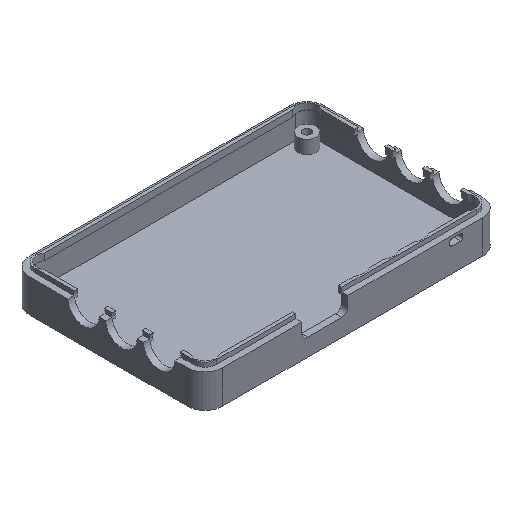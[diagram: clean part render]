
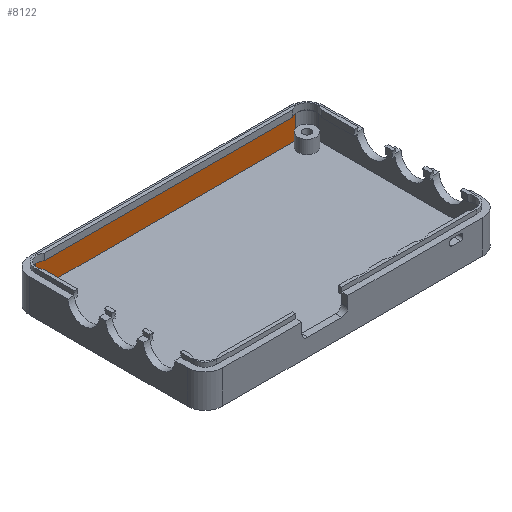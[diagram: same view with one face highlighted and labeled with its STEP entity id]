
A CAD part, isometric view. The second image highlights one B-rep face of the part: STEP entity #8122.
In plain terms, the highlighted planar face has unit normal (0, -1, 0).
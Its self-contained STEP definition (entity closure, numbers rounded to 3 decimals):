
#2402 = PLANE('',#2403);
#2403 = AXIS2_PLACEMENT_3D('',#2404,#2405,#2406);
#2404 = CARTESIAN_POINT('',(-0.6,-0.6,9.4));
#2405 = DIRECTION('',(0.,0.,1.));
#2406 = DIRECTION('',(1.,0.,0.));
#3807 = PLANE('',#3808);
#3808 = AXIS2_PLACEMENT_3D('',#3809,#3810,#3811);
#3809 = CARTESIAN_POINT('',(-0.4,-0.4,2.));
#3810 = DIRECTION('',(0.,0.,1.));
#3811 = DIRECTION('',(1.,0.,0.));
#5268 = CYLINDRICAL_SURFACE('',#5269,3.4);
#5269 = AXIS2_PLACEMENT_3D('',#5270,#5271,#5272);
#5270 = CARTESIAN_POINT('',(3.,51.,2.));
#5271 = DIRECTION('',(0.,0.,1.));
#5272 = DIRECTION('',(-1.,-0.,0.));
#5512 = EDGE_CURVE('',#5513,#5515,#5517,.T.);
#5513 = VERTEX_POINT('',#5514);
#5514 = CARTESIAN_POINT('',(3.,54.4,9.4));
#5515 = VERTEX_POINT('',#5516);
#5516 = CARTESIAN_POINT('',(82.,54.4,9.4));
#5517 = SURFACE_CURVE('',#5518,(#5522,#5528),.PCURVE_S1.);
#5518 = LINE('',#5519,#5520);
#5519 = CARTESIAN_POINT('',(-0.5,54.4,9.4));
#5520 = VECTOR('',#5521,1.);
#5521 = DIRECTION('',(1.,0.,0.));
#5522 = PCURVE('',#2402,#5523);
#5523 = DEFINITIONAL_REPRESENTATION('',(#5524),#5527);
#5524 = B_SPLINE_CURVE_WITH_KNOTS('',1,(#5525,#5526),.UNSPECIFIED.,.F.,
  .F.,(2,2),(3.5,82.5),.PIECEWISE_BEZIER_KNOTS.);
#5525 = CARTESIAN_POINT('',(3.6,55.));
#5526 = CARTESIAN_POINT('',(82.6,55.));
#5527 = ( GEOMETRIC_REPRESENTATION_CONTEXT(2) 
PARAMETRIC_REPRESENTATION_CONTEXT() REPRESENTATION_CONTEXT('2D SPACE',''
  ) );
#5528 = PCURVE('',#5529,#5534);
#5529 = PLANE('',#5530);
#5530 = AXIS2_PLACEMENT_3D('',#5531,#5532,#5533);
#5531 = CARTESIAN_POINT('',(-0.4,54.4,2.));
#5532 = DIRECTION('',(0.,1.,0.));
#5533 = DIRECTION('',(0.,0.,1.));
#5534 = DEFINITIONAL_REPRESENTATION('',(#5535),#5538);
#5535 = B_SPLINE_CURVE_WITH_KNOTS('',1,(#5536,#5537),.UNSPECIFIED.,.F.,
  .F.,(2,2),(3.5,82.5),.PIECEWISE_BEZIER_KNOTS.);
#5536 = CARTESIAN_POINT('',(7.4,3.4));
#5537 = CARTESIAN_POINT('',(7.4,82.4));
#5538 = ( GEOMETRIC_REPRESENTATION_CONTEXT(2) 
PARAMETRIC_REPRESENTATION_CONTEXT() REPRESENTATION_CONTEXT('2D SPACE',''
  ) );
#5729 = CYLINDRICAL_SURFACE('',#5730,3.4);
#5730 = AXIS2_PLACEMENT_3D('',#5731,#5732,#5733);
#5731 = CARTESIAN_POINT('',(82.,51.,2.));
#5732 = DIRECTION('',(0.,0.,1.));
#5733 = DIRECTION('',(1.,0.,-0.));
#7625 = VERTEX_POINT('',#7626);
#7626 = CARTESIAN_POINT('',(82.,54.4,2.));
#7648 = EDGE_CURVE('',#7649,#7625,#7651,.T.);
#7649 = VERTEX_POINT('',#7650);
#7650 = CARTESIAN_POINT('',(3.,54.4,2.));
#7651 = SURFACE_CURVE('',#7652,(#7656,#7663),.PCURVE_S1.);
#7652 = LINE('',#7653,#7654);
#7653 = CARTESIAN_POINT('',(-0.4,54.4,2.));
#7654 = VECTOR('',#7655,1.);
#7655 = DIRECTION('',(1.,0.,0.));
#7656 = PCURVE('',#3807,#7657);
#7657 = DEFINITIONAL_REPRESENTATION('',(#7658),#7662);
#7658 = LINE('',#7659,#7660);
#7659 = CARTESIAN_POINT('',(0.,54.8));
#7660 = VECTOR('',#7661,1.);
#7661 = DIRECTION('',(1.,0.));
#7662 = ( GEOMETRIC_REPRESENTATION_CONTEXT(2) 
PARAMETRIC_REPRESENTATION_CONTEXT() REPRESENTATION_CONTEXT('2D SPACE',''
  ) );
#7663 = PCURVE('',#5529,#7664);
#7664 = DEFINITIONAL_REPRESENTATION('',(#7665),#7669);
#7665 = LINE('',#7666,#7667);
#7666 = CARTESIAN_POINT('',(0.,0.));
#7667 = VECTOR('',#7668,1.);
#7668 = DIRECTION('',(0.,1.));
#7669 = ( GEOMETRIC_REPRESENTATION_CONTEXT(2) 
PARAMETRIC_REPRESENTATION_CONTEXT() REPRESENTATION_CONTEXT('2D SPACE',''
  ) );
#8101 = EDGE_CURVE('',#7649,#5513,#8102,.T.);
#8102 = SURFACE_CURVE('',#8103,(#8107,#8114),.PCURVE_S1.);
#8103 = LINE('',#8104,#8105);
#8104 = CARTESIAN_POINT('',(3.,54.4,2.));
#8105 = VECTOR('',#8106,1.);
#8106 = DIRECTION('',(0.,0.,1.));
#8107 = PCURVE('',#5268,#8108);
#8108 = DEFINITIONAL_REPRESENTATION('',(#8109),#8113);
#8109 = LINE('',#8110,#8111);
#8110 = CARTESIAN_POINT('',(-1.571,0.));
#8111 = VECTOR('',#8112,1.);
#8112 = DIRECTION('',(-0.,1.));
#8113 = ( GEOMETRIC_REPRESENTATION_CONTEXT(2) 
PARAMETRIC_REPRESENTATION_CONTEXT() REPRESENTATION_CONTEXT('2D SPACE',''
  ) );
#8114 = PCURVE('',#5529,#8115);
#8115 = DEFINITIONAL_REPRESENTATION('',(#8116),#8120);
#8116 = LINE('',#8117,#8118);
#8117 = CARTESIAN_POINT('',(0.,3.4));
#8118 = VECTOR('',#8119,1.);
#8119 = DIRECTION('',(1.,0.));
#8120 = ( GEOMETRIC_REPRESENTATION_CONTEXT(2) 
PARAMETRIC_REPRESENTATION_CONTEXT() REPRESENTATION_CONTEXT('2D SPACE',''
  ) );
#8122 = ADVANCED_FACE('',(#8123),#5529,.F.);
#8123 = FACE_BOUND('',#8124,.F.);
#8124 = EDGE_LOOP('',(#8125,#8126,#8127,#8128));
#8125 = ORIENTED_EDGE('',*,*,#7648,.F.);
#8126 = ORIENTED_EDGE('',*,*,#8101,.T.);
#8127 = ORIENTED_EDGE('',*,*,#5512,.T.);
#8128 = ORIENTED_EDGE('',*,*,#8129,.F.);
#8129 = EDGE_CURVE('',#7625,#5515,#8130,.T.);
#8130 = SURFACE_CURVE('',#8131,(#8135,#8142),.PCURVE_S1.);
#8131 = LINE('',#8132,#8133);
#8132 = CARTESIAN_POINT('',(82.,54.4,2.));
#8133 = VECTOR('',#8134,1.);
#8134 = DIRECTION('',(0.,0.,1.));
#8135 = PCURVE('',#5529,#8136);
#8136 = DEFINITIONAL_REPRESENTATION('',(#8137),#8141);
#8137 = LINE('',#8138,#8139);
#8138 = CARTESIAN_POINT('',(0.,82.4));
#8139 = VECTOR('',#8140,1.);
#8140 = DIRECTION('',(1.,0.));
#8141 = ( GEOMETRIC_REPRESENTATION_CONTEXT(2) 
PARAMETRIC_REPRESENTATION_CONTEXT() REPRESENTATION_CONTEXT('2D SPACE',''
  ) );
#8142 = PCURVE('',#5729,#8143);
#8143 = DEFINITIONAL_REPRESENTATION('',(#8144),#8148);
#8144 = LINE('',#8145,#8146);
#8145 = CARTESIAN_POINT('',(1.571,0.));
#8146 = VECTOR('',#8147,1.);
#8147 = DIRECTION('',(0.,1.));
#8148 = ( GEOMETRIC_REPRESENTATION_CONTEXT(2) 
PARAMETRIC_REPRESENTATION_CONTEXT() REPRESENTATION_CONTEXT('2D SPACE',''
  ) );
